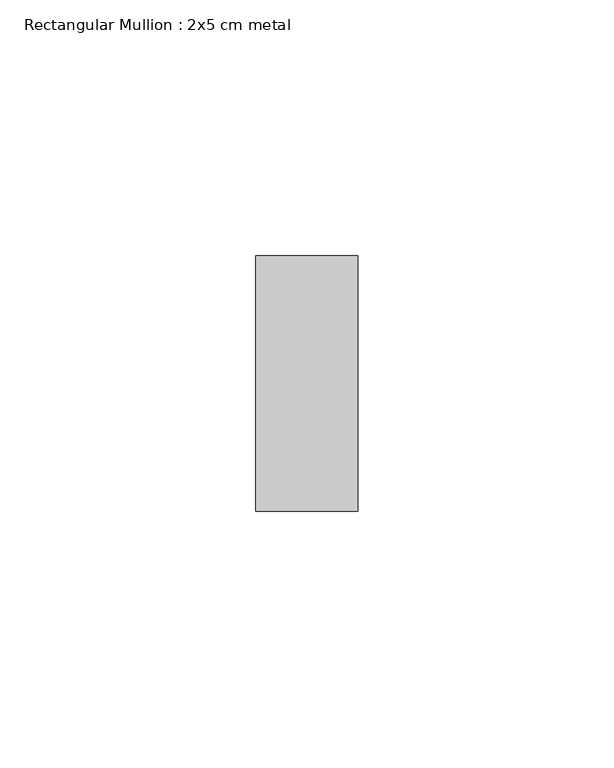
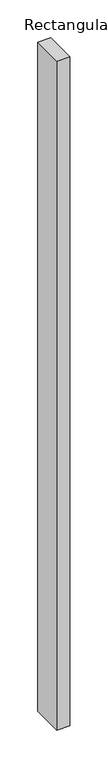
"""IFC4 building model written with IfcOpenShell, lengths in millimetres: member geometry, Rectangular Mullion : 2x5 cm metal."""

from ifc_helpers import new_model, si_unit, frame, origin, place, context, project, spatial, polyline, outline, extrude, source, transform, mapped, element, save


def rectangular_mullion_2x5_cm_metal_a1f99725(model_context):
    return source(origin(), model_context, "Body", "SweptSolid", [
        extrude(outline(polyline([(10.0, 25.0), (10.0, -25.0), (-10.0, -25.0), (-10.0, 25.0), (10.0, 25.0)])), frame((0.0, 0.0, -1078.9366027), z_axis=(0.0, 0.0, 1.0), x_axis=(1.0, 0.0, 0.0)), (0.0, 0.0, 1.0), 1078.9366027),
    ])


if __name__ == "__main__":
    model = new_model("IFC4")
    model_context = context("Model", 3, world=origin())
    ifc_project = project(units=[si_unit("LENGTHUNIT", "METRE", prefix="MILLI")], contexts=[model_context])
    site = spatial("IfcSite", under=ifc_project)
    building = spatial("IfcBuilding", under=site)
    placement = place(None, origin())
    rectangular_mullion_2x5_cm_metal_shape = rectangular_mullion_2x5_cm_metal_a1f99725(model_context)
    element("IfcMember", 1, ObjectType="Rectangular Mullion : 2x5 cm metal", at=placement, inside=building, context=model_context, shape_type="MappedRepresentation", body=[
        mapped(rectangular_mullion_2x5_cm_metal_shape, transform((0.0, 0.0, 0.0), x_axis=(1.0, 0.0, 0.0), y_axis=(0.0, 1.0, 0.0), z_axis=(0.0, 0.0, 1.0))),
    ])
    save(model, "model.ifc")
